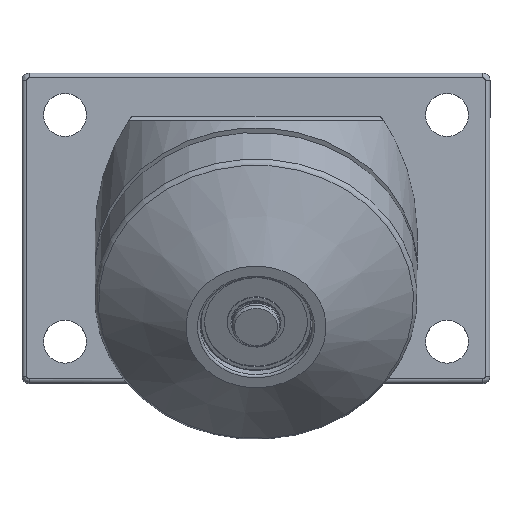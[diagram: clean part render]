
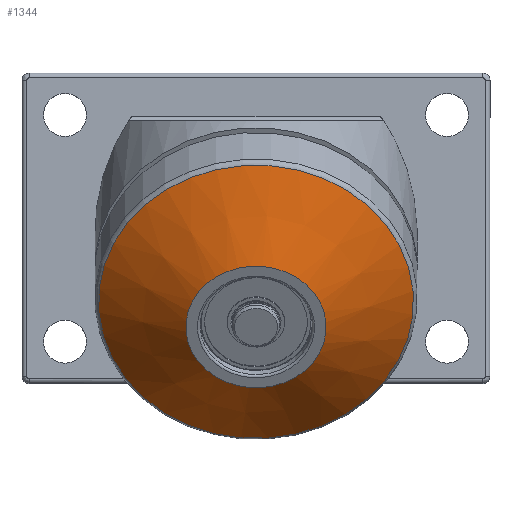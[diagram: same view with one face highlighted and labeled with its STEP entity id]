
A CAD part, top view. The second image highlights one B-rep face of the part: STEP entity #1344.
In plain terms, the highlighted conical face has half-angle 60 degrees and reference radius 48.447 mm.
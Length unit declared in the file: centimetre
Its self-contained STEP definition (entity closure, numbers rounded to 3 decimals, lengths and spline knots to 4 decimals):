
#93=CONICAL_SURFACE('',#1475,4.8447,60.);
#202=FACE_BOUND('',#410,.T.);
#285=FACE_OUTER_BOUND('',#409,.T.);
#409=EDGE_LOOP('',(#961));
#410=EDGE_LOOP('',(#962));
#569=CIRCLE('',#1465,2.9395);
#574=CIRCLE('',#1474,6.6);
#669=VERTEX_POINT('',#2133);
#674=VERTEX_POINT('',#2147);
#789=EDGE_CURVE('',#669,#669,#569,.T.);
#794=EDGE_CURVE('',#674,#674,#574,.T.);
#961=ORIENTED_EDGE('',*,*,#789,.F.);
#962=ORIENTED_EDGE('',*,*,#794,.F.);
#1344=ADVANCED_FACE('',(#285,#202),#93,.T.);
#1465=AXIS2_PLACEMENT_3D('',#2134,#1711,#1712);
#1474=AXIS2_PLACEMENT_3D('',#2148,#1729,#1730);
#1475=AXIS2_PLACEMENT_3D('',#2149,#1731,#1732);
#1711=DIRECTION('center_axis',(0.,-0.5,0.866));
#1712=DIRECTION('ref_axis',(0.251,-0.838,-0.484));
#1729=DIRECTION('center_axis',(0.,0.5,-0.866));
#1730=DIRECTION('ref_axis',(0.251,-0.838,-0.484));
#1731=DIRECTION('center_axis',(0.,0.5,-0.866));
#1732=DIRECTION('ref_axis',(-0.251,0.838,0.484));
#2133=CARTESIAN_POINT('',(-0.7372,0.6193,9.9534));
#2134=CARTESIAN_POINT('Origin',(0.,-1.845,8.5306));
#2147=CARTESIAN_POINT('',(-1.6552,4.7448,9.8949));
#2148=CARTESIAN_POINT('Origin',(0.,-0.7883,
6.7004));
#2149=CARTESIAN_POINT('Origin',(0.,-1.295,7.578));
